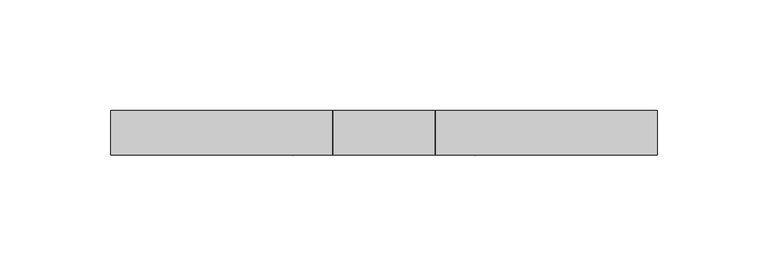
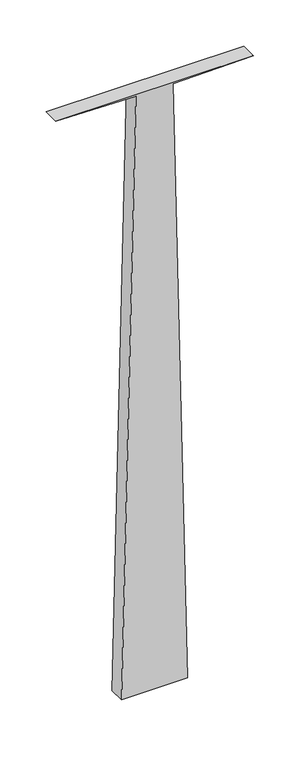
"""IFC4 building model written with IfcOpenShell, lengths in millimetres: plate geometry, 空系统嵌板 : 空."""

import ifcopenshell
import ifcopenshell.guid

model = None  # the IFC model being written
_history = None  # IfcOwnerHistory: only IFC2X3 demands one
_inside = {}  # id of a spatial element -> (the spatial element, [elements in it])
_under = {}  # id of a project, library or spatial element -> (it, [spatial elements below it])
_declared = {}  # id of a project -> (the project, [libraries it declares])
_typed = {}  # id of a type object -> (the type object, [elements of that type])
_made_of = {}  # id of a material, layer set ... -> (it, [elements and type objects made of it])


def new_model(schema):
    """Start an empty IFC model of exactly this schema.

    Asked for "IFC4X3", IfcOpenShell would pick the latest addendum, in which some entities
    have other attributes; the version numbers below select the first issue.
    IFC2X3 requires an IfcOwnerHistory on every rooted entity: one is made here for all.
    """
    global model, _history
    if schema == "IFC4X3":
        model = ifcopenshell.file(schema_version=(4, 3, 0, 0))
    else:
        model = ifcopenshell.file(schema=schema)
    _inside.clear()
    _under.clear()
    _declared.clear()
    _typed.clear()
    _made_of.clear()
    _history = None
    if model.schema == "IFC2X3":
        org = make("IfcOrganization", Name="unknown")
        user = make(
            "IfcPersonAndOrganization",
            ThePerson=make("IfcPerson", FamilyName="unknown"),
            TheOrganization=org,
        )
        app = make(
            "IfcApplication",
            ApplicationDeveloper=org,
            Version="unknown",
            ApplicationFullName="unknown",
            ApplicationIdentifier="unknown",
        )
        _history = make(
            "IfcOwnerHistory",
            OwningUser=user,
            OwningApplication=app,
            ChangeAction="ADDED",
            CreationDate=0,
        )
    return model


def make(cls, **values):
    """One entity of the class cls with the attributes given. An attribute that is None is left unset."""
    return model.create_entity(
        cls, **{name: value for name, value in values.items() if value is not None}
    )


def rooted(cls, **values):
    """An entity with a GlobalId (a new one), such as an element, a storey or a relation."""
    return make(cls, GlobalId=ifcopenshell.guid.new(), OwnerHistory=_history, **values)


def si_unit(unit_type, name, prefix=None):
    """IfcSIUnit, for example si_unit("LENGTHUNIT", "METRE", prefix="MILLI")."""
    return make("IfcSIUnit", UnitType=unit_type, Prefix=prefix, Name=name)


def assignment(units):
    """IfcUnitAssignment: the units of a project."""
    return None if units is None else make("IfcUnitAssignment", Units=units)


def point(xyz):
    """IfcCartesianPoint."""
    return None if xyz is None else make("IfcCartesianPoint", Coordinates=xyz)


def direction(xyz):
    """IfcDirection."""
    return None if xyz is None else make("IfcDirection", DirectionRatios=xyz)


def frame(location, z_axis=None, x_axis=None):
    """IfcAxis2Placement3D, a coordinate frame: its origin and axes. An axis left out is left unset."""
    return make(
        "IfcAxis2Placement3D",
        Location=point(location),
        Axis=direction(z_axis),
        RefDirection=direction(x_axis),
    )


def origin():
    """The frame at (0, 0, 0) with its axes left unset."""
    return frame((0.0, 0.0, 0.0))


def place(relative_to, where):
    """IfcLocalPlacement: puts the frame where relative to a parent placement (None: the world)."""
    return make(
        "IfcLocalPlacement", PlacementRelTo=relative_to, RelativePlacement=where
    )


def context(
    kind, dimensions, precision=None, world=None, true_north=None, identifier=None
):
    """IfcGeometricRepresentationContext, for example the 3D "Model" context."""
    return make(
        "IfcGeometricRepresentationContext",
        ContextIdentifier=identifier,
        ContextType=kind,
        CoordinateSpaceDimension=dimensions,
        Precision=precision,
        WorldCoordinateSystem=world,
        TrueNorth=true_north,
    )


def project(units=None, contexts=None):
    """IfcProject with its units and contexts."""
    return rooted(
        "IfcProject",
        Name="project",
        RepresentationContexts=contexts,
        UnitsInContext=assignment(units),
    )


def spatial(cls, under=None, at=None, **own):
    """A site, building, storey or space (cls), placed at a placement, below another one or the project."""
    s = rooted(cls, ObjectPlacement=at, **own)
    if under is not None:
        _under.setdefault(under.id(), (under, []))[1].append(s)
    return s


def polyline(points):
    """IfcPolyline through the points."""
    return make("IfcPolyline", Points=[point(p) for p in points])


def outline(outer, holes=None, kind="AREA"):
    """IfcArbitraryClosedProfileDef: a profile drawn as a closed curve; with holes, ...WithVoids."""
    if holes is None:
        return make("IfcArbitraryClosedProfileDef", ProfileType=kind, OuterCurve=outer)
    return make(
        "IfcArbitraryProfileDefWithVoids",
        ProfileType=kind,
        OuterCurve=outer,
        InnerCurves=holes,
    )


def extrude(swept, where, along, depth):
    """IfcExtrudedAreaSolid: the profile swept, set in the frame where, extruded along a direction by depth."""
    return make(
        "IfcExtrudedAreaSolid",
        SweptArea=swept,
        Position=where,
        ExtrudedDirection=direction(along),
        Depth=depth,
    )


def shape(context_of_items, identifier, shape_type, items):
    """IfcShapeRepresentation: the items that make up one representation, for example the "Body"."""
    return make(
        "IfcShapeRepresentation",
        ContextOfItems=context_of_items,
        RepresentationIdentifier=identifier,
        RepresentationType=shape_type,
        Items=items,
    )


def source(mapping_origin, context_of_items, identifier, shape_type, items):
    """IfcRepresentationMap: a shape defined once, which mapped items show again and again."""
    return make(
        "IfcRepresentationMap",
        MappingOrigin=mapping_origin,
        MappedRepresentation=shape(context_of_items, identifier, shape_type, items),
    )


def transform(
    local_origin,
    x_axis=None,
    y_axis=None,
    z_axis=None,
    scale=None,
    scale2=None,
    scale3=None,
    uniform=True,
):
    """IfcCartesianTransformationOperator3D, or its non-uniform kind. x_axis, y_axis, z_axis: its Axis1, 2, 3."""
    if uniform:
        return make(
            "IfcCartesianTransformationOperator3D",
            Axis1=direction(x_axis),
            Axis2=direction(y_axis),
            LocalOrigin=point(local_origin),
            Scale=scale,
            Axis3=direction(z_axis),
        )
    return make(
        "IfcCartesianTransformationOperator3DnonUniform",
        Axis1=direction(x_axis),
        Axis2=direction(y_axis),
        LocalOrigin=point(local_origin),
        Scale=scale,
        Axis3=direction(z_axis),
        Scale2=scale2,
        Scale3=scale3,
    )


def mapped(mapping_source, mapping_target):
    """IfcMappedItem: shows the shape of a source again, moved by a transform."""
    return make(
        "IfcMappedItem", MappingSource=mapping_source, MappingTarget=mapping_target
    )


def made_of(thing, what):
    """Note that an element or type object is made of a material, layer set ...; save() writes the relation."""
    if what is not None:
        _made_of.setdefault(what.id(), (what, []))[1].append(thing)
    return thing


def element(
    cls,
    number,
    at=None,
    inside=None,
    cuts=None,
    type_object=None,
    material=None,
    context=None,
    identifier="Body",
    shape_type=None,
    held_by="IfcProductDefinitionShape",
    body=None,
    shapes=None,
    **own,
):
    """One element of the class cls, such as IfcWall. Its Tag is "e" and its number.

    at: its placement. inside: the storey or other place that contains it. cuts: it is an
    opening in that element (IfcRelVoidsElement). A single representation is given by context,
    identifier, shape_type and body (its items); several are given by shapes. held_by: the class
    of the entity that holds the representations. save() writes the other relations.
    """
    e = rooted(cls, Tag="e%d" % number, ObjectPlacement=at, **own)
    if body is not None:
        shapes = [shape(context, identifier, shape_type, body)]
    if shapes is not None:
        e.Representation = make(held_by, Representations=shapes)
    if inside is not None:
        _inside.setdefault(inside.id(), (inside, []))[1].append(e)
    if cuts is not None:
        rooted(
            "IfcRelVoidsElement", RelatingBuildingElement=cuts, RelatedOpeningElement=e
        )
    if type_object is not None:
        _typed.setdefault(type_object.id(), (type_object, []))[1].append(e)
    return made_of(e, material)


def aggregate(whole, parts):
    """IfcRelAggregates: a whole, such as a stair, and the parts it consists of."""
    return rooted("IfcRelAggregates", RelatingObject=whole, RelatedObjects=parts)


def save(model, path):
    """Write the relations noted so far, then the file.

    IfcRelAggregates (storeys below a building ...), IfcRelContainedInSpatialStructure (elements
    in a storey), IfcRelDefinesByType, IfcRelAssociatesMaterial and IfcRelDeclares: one each for
    every whole, place, type object, material and project.
    """
    for whole, parts in _under.values():
        aggregate(whole, parts)
    for where, things in _inside.values():
        rooted(
            "IfcRelContainedInSpatialStructure",
            RelatedElements=things,
            RelatingStructure=where,
        )
    for kind, things in _typed.values():
        rooted("IfcRelDefinesByType", RelatedObjects=things, RelatingType=kind)
    for what, things in _made_of.values():
        rooted("IfcRelAssociatesMaterial", RelatedObjects=things, RelatingMaterial=what)
    for by, libraries in _declared.values():
        rooted("IfcRelDeclares", RelatingContext=by, RelatedDefinitions=libraries)
    model.write(path)


def plate_013eb8b5(model_context):
    return source(origin(), model_context, "Body", "SweptSolid", [
        extrude(outline(polyline([(0.0, -41.1010996), (0.0, 41.1010996), (787.6388922, 23.2174579), (789.9088453, 123.1916911), (789.9088453, -123.1916911), (787.6388922, -23.2174579), (0.0, -41.1010996)])), frame((0.0, -10.0, 0.0), z_axis=(0.0, 1.0, 0.0), x_axis=(0.0, 0.0, 1.0)), (0.0, 0.0, 1.0), 20.0),
    ])


if __name__ == "__main__":
    model = new_model("IFC4")
    model_context = context("Model", 3, world=origin())
    ifc_project = project(units=[si_unit("LENGTHUNIT", "METRE", prefix="MILLI")], contexts=[model_context])
    site = spatial("IfcSite", under=ifc_project)
    building = spatial("IfcBuilding", under=site)
    placement = place(None, origin())
    plate_shape = plate_013eb8b5(model_context)
    element("IfcPlate", 1, ObjectType="空系统嵌板 : 空", at=placement, inside=building, context=model_context, shape_type="MappedRepresentation", body=[
        mapped(plate_shape, transform((0.0, 0.0, 0.0), x_axis=(1.0, 0.0, 0.0), y_axis=(0.0, 1.0, 0.0), z_axis=(0.0, 0.0, 1.0))),
    ])
    save(model, "model.ifc")
